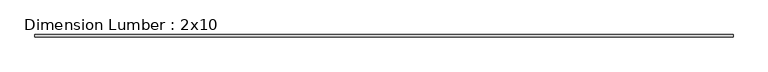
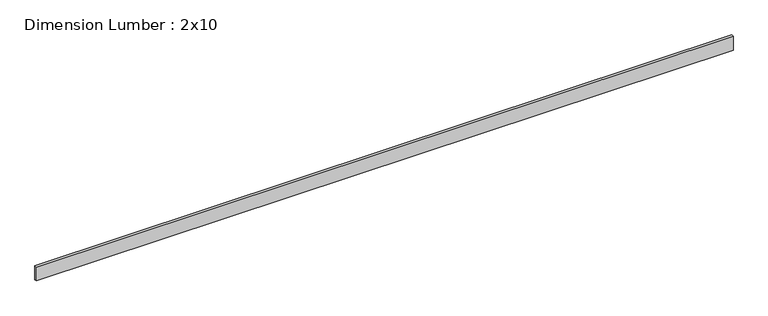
"""IFC4 building model written with IfcOpenShell, lengths in millimetres: beam geometry, Dimension Lumber : 2x10."""

from ifc_helpers import new_model, si_unit, frame, origin, place, context, project, spatial, polyline, outline, extrude, source, transform, mapped, element, save


def dimension_lumber_2x10_4a288842(model_context):
    return source(origin(), model_context, "Body", "SweptSolid", [
        extrude(outline(polyline([(5576.0327811, 19.05), (5576.0327811, -19.05), (-5576.0327811, -19.05), (-5576.0327811, 19.05), (5576.0327811, 19.05)])), frame((0.0, 0.0, -117.475), z_axis=(0.0, 0.0, 1.0), x_axis=(1.0, 0.0, 0.0)), (0.0, 0.0, 1.0), 234.95),
    ])


if __name__ == "__main__":
    model = new_model("IFC4")
    model_context = context("Model", 3, world=origin())
    ifc_project = project(units=[si_unit("LENGTHUNIT", "METRE", prefix="MILLI")], contexts=[model_context])
    site = spatial("IfcSite", under=ifc_project)
    building = spatial("IfcBuilding", under=site)
    placement = place(None, origin())
    dimension_lumber_2x10_shape = dimension_lumber_2x10_4a288842(model_context)
    element("IfcBeam", 1, ObjectType="Dimension Lumber : 2x10", at=placement, inside=building, context=model_context, shape_type="MappedRepresentation", body=[
        mapped(dimension_lumber_2x10_shape, transform((0.0, 0.0, 0.0), x_axis=(1.0, 0.0, 0.0), y_axis=(0.0, 1.0, 0.0), z_axis=(0.0, 0.0, 1.0))),
    ])
    save(model, "model.ifc")
